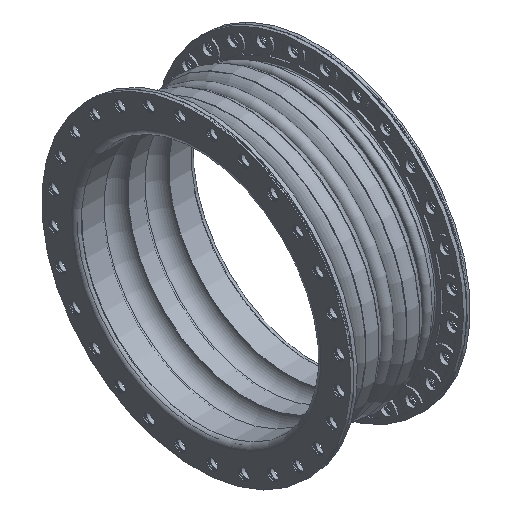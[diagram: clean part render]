
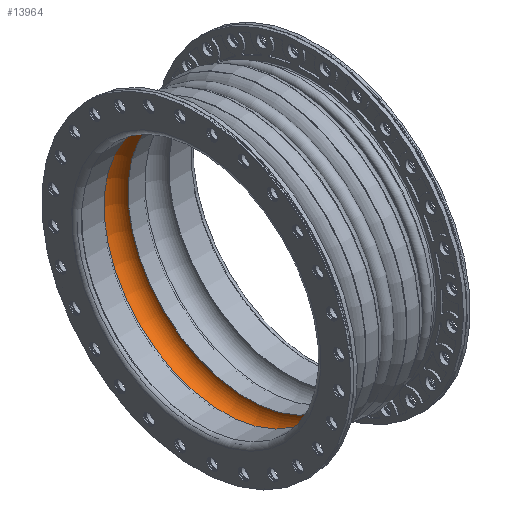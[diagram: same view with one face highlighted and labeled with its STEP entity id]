
A CAD part, isometric view. The second image highlights one B-rep face of the part: STEP entity #13964.
In plain terms, the highlighted toroidal (fillet/blend) face has major radius 381 mm and minor radius 38.1 mm.
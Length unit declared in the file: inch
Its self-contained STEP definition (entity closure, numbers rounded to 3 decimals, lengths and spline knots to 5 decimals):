
#13930=CARTESIAN_POINT('',(-1.0625,15.,0.0));
#13931=VERTEX_POINT('',#13930);
#13932=CARTESIAN_POINT('',(-1.0625,0.,0.0));
#13933=DIRECTION('',(1.0,0.0,0.0));
#13934=DIRECTION('',(0.0,1.0,0.0));
#13935=AXIS2_PLACEMENT_3D('',#13932,#13933,#13934);
#13936=CIRCLE('',#13935,15.);
#13937=EDGE_CURVE('',#13931,#13931,#13936,.T.);
#13945=CARTESIAN_POINT('',(-2.5625,0.0,0.0));
#13946=DIRECTION('',(1.0,0.,0.0));
#13947=DIRECTION('',(0.0,0.0,-1.0));
#13948=AXIS2_PLACEMENT_3D('',#13945,#13946,#13947);
#13949=TOROIDAL_SURFACE('',#13948,15.,1.5);
#13950=CARTESIAN_POINT('',(-4.0625,15.,0.0));
#13951=VERTEX_POINT('',#13950);
#13952=CARTESIAN_POINT('',(-4.0625,0.,0.0));
#13953=DIRECTION('',(1.0,0.0,0.0));
#13954=DIRECTION('',(0.0,1.0,0.0));
#13955=AXIS2_PLACEMENT_3D('',#13952,#13953,#13954);
#13956=CIRCLE('',#13955,15.);
#13957=EDGE_CURVE('',#13951,#13951,#13956,.T.);
#13958=ORIENTED_EDGE('',*,*,#13957,.F.);
#13959=EDGE_LOOP('',(#13958));
#13960=FACE_OUTER_BOUND('',#13959,.T.);
#13961=ORIENTED_EDGE('',*,*,#13937,.T.);
#13962=EDGE_LOOP('',(#13961));
#13963=FACE_BOUND('',#13962,.T.);
#13964=ADVANCED_FACE('',(#13960,#13963),#13949,.F.);
